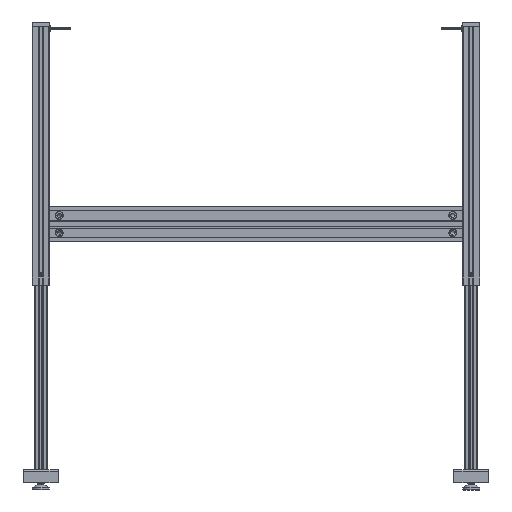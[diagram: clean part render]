
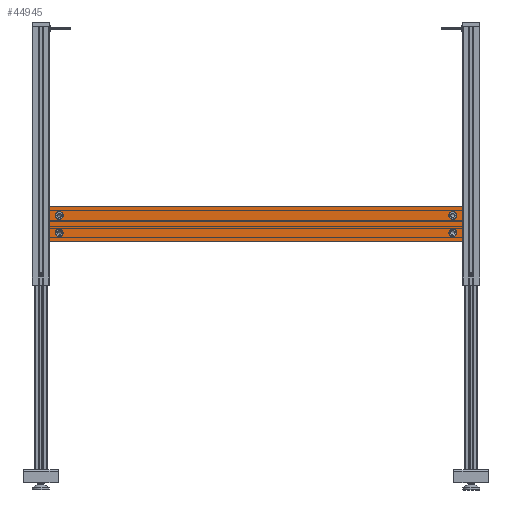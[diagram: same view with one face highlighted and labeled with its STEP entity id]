
A CAD part, left-side view. The second image highlights one B-rep face of the part: STEP entity #44945.
In plain terms, the highlighted planar face has unit normal (-1, 0, 0) as drawn and (1, 0, 0) by its records, which use the part's own axes.
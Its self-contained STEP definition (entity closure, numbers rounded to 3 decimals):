
#3001=CIRCLE('',#57373,9.);
#3002=CIRCLE('',#57374,9.);
#3003=CIRCLE('',#57375,9.);
#3004=CIRCLE('',#57376,9.);
#14803=ORIENTED_EDGE('',*,*,#22067,.T.);
#14804=ORIENTED_EDGE('',*,*,#22068,.T.);
#14805=ORIENTED_EDGE('',*,*,#22069,.T.);
#14806=ORIENTED_EDGE('',*,*,#22070,.T.);
#14807=ORIENTED_EDGE('',*,*,#22071,.T.);
#14808=ORIENTED_EDGE('',*,*,#22072,.F.);
#14809=ORIENTED_EDGE('',*,*,#22073,.T.);
#14810=ORIENTED_EDGE('',*,*,#22074,.T.);
#22067=EDGE_CURVE('',#26709,#26709,#3001,.T.);
#22068=EDGE_CURVE('',#26710,#26710,#3002,.T.);
#22069=EDGE_CURVE('',#26711,#26712,#31270,.T.);
#22070=EDGE_CURVE('',#26712,#26713,#31271,.T.);
#22071=EDGE_CURVE('',#26713,#26714,#31272,.T.);
#22072=EDGE_CURVE('',#26711,#26714,#31273,.T.);
#22073=EDGE_CURVE('',#26715,#26715,#3003,.T.);
#22074=EDGE_CURVE('',#26716,#26716,#3004,.T.);
#26709=VERTEX_POINT('',#83052);
#26710=VERTEX_POINT('',#83054);
#26711=VERTEX_POINT('',#83056);
#26712=VERTEX_POINT('',#83057);
#26713=VERTEX_POINT('',#83059);
#26714=VERTEX_POINT('',#83061);
#26715=VERTEX_POINT('',#83064);
#26716=VERTEX_POINT('',#83066);
#31270=LINE('',#83055,#35751);
#31271=LINE('',#83058,#35752);
#31272=LINE('',#83060,#35753);
#31273=LINE('',#83062,#35754);
#35751=VECTOR('',#69175,1000.);
#35752=VECTOR('',#69176,1000.);
#35753=VECTOR('',#69177,1000.);
#35754=VECTOR('',#69178,1000.);
#38343=EDGE_LOOP('',(#14803));
#38344=EDGE_LOOP('',(#14804));
#38345=EDGE_LOOP('',(#14805,#14806,#14807,#14808));
#38346=EDGE_LOOP('',(#14809));
#38347=EDGE_LOOP('',(#14810));
#40974=FACE_BOUND('',#38343,.T.);
#40975=FACE_BOUND('',#38344,.T.);
#40976=FACE_BOUND('',#38345,.T.);
#40977=FACE_BOUND('',#38346,.T.);
#40978=FACE_BOUND('',#38347,.T.);
#42734=PLANE('',#57372);
#44945=ADVANCED_FACE('',(#40974,#40975,#40976,#40977,#40978),#42734,.T.);
#57372=AXIS2_PLACEMENT_3D('',#83050,#69169,#69170);
#57373=AXIS2_PLACEMENT_3D('',#83051,#69171,#69172);
#57374=AXIS2_PLACEMENT_3D('',#83053,#69173,#69174);
#57375=AXIS2_PLACEMENT_3D('',#83063,#69179,#69180);
#57376=AXIS2_PLACEMENT_3D('',#83065,#69181,#69182);
#69169=DIRECTION('',(1.,0.,0.));
#69170=DIRECTION('',(0.,1.,0.));
#69171=DIRECTION('',(-1.,0.,0.));
#69172=DIRECTION('',(0.,0.,1.));
#69173=DIRECTION('',(-1.,0.,0.));
#69174=DIRECTION('',(0.,0.,1.));
#69175=DIRECTION('',(0.,1.,0.));
#69176=DIRECTION('',(0.,0.,1.));
#69177=DIRECTION('',(0.,-1.,0.));
#69178=DIRECTION('',(0.,0.,1.));
#69179=DIRECTION('',(-1.,0.,0.));
#69180=DIRECTION('',(0.,0.,1.));
#69181=DIRECTION('',(-1.,0.,0.));
#69182=DIRECTION('',(0.,0.,1.));
#83050=CARTESIAN_POINT('',(40.,80.,-1.));
#83051=CARTESIAN_POINT('',(40.,20.,927.5));
#83052=CARTESIAN_POINT('',(40.,20.,936.5));
#83053=CARTESIAN_POINT('',(40.,20.,22.5));
#83054=CARTESIAN_POINT('',(40.,20.,31.5));
#83055=CARTESIAN_POINT('',(40.,80.,0.));
#83056=CARTESIAN_POINT('',(40.,0.,0.));
#83057=CARTESIAN_POINT('',(40.,80.,0.));
#83058=CARTESIAN_POINT('',(40.,80.,-1.));
#83059=CARTESIAN_POINT('',(40.,80.,950.));
#83060=CARTESIAN_POINT('',(40.,40.,950.));
#83061=CARTESIAN_POINT('',(40.,0.,950.));
#83062=CARTESIAN_POINT('',(40.,0.,-1.));
#83063=CARTESIAN_POINT('',(40.,60.,22.5));
#83064=CARTESIAN_POINT('',(40.,60.,31.5));
#83065=CARTESIAN_POINT('',(40.,60.,927.5));
#83066=CARTESIAN_POINT('',(40.,60.,936.5));
